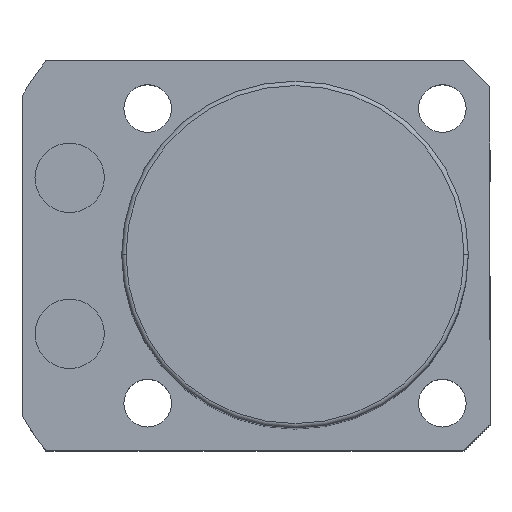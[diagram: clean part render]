
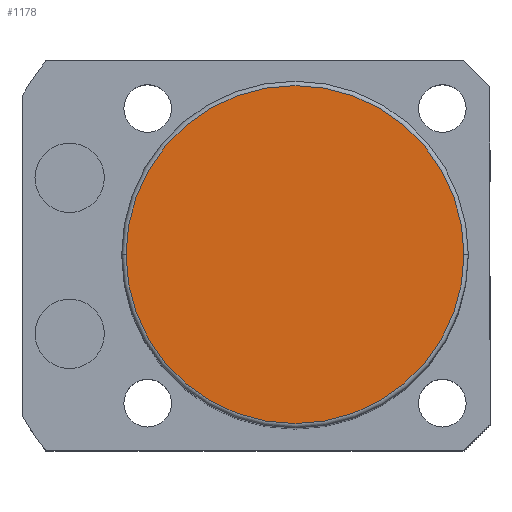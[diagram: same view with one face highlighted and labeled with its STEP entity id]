
A CAD part, top view. The second image highlights one B-rep face of the part: STEP entity #1178.
In plain terms, the highlighted planar face has unit normal (0, 0, 1).
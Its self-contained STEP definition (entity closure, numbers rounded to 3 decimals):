
#7 = CARTESIAN_POINT ( 'NONE',  ( 0., 0., 93.5 ) ) ;
#19 = EDGE_CURVE ( 'NONE', #2079, #356, #2038, .T. ) ;
#131 = AXIS2_PLACEMENT_3D ( 'NONE', #1934, #2527, #2538 ) ;
#213 = EDGE_LOOP ( 'NONE', ( #1511, #2549 ) ) ;
#221 = DIRECTION ( 'NONE',  ( 1., 0., 0. ) ) ;
#241 = PLANE ( 'NONE',  #131 ) ;
#356 = VERTEX_POINT ( 'NONE', #824 ) ;
#705 = DIRECTION ( 'NONE',  ( 0., 0., 1. ) ) ;
#824 = CARTESIAN_POINT ( 'NONE',  ( 19.5, 0., 93.5 ) ) ;
#1178 = ADVANCED_FACE ( 'NONE', ( #1349 ), #241, .T. ) ;
#1317 = CARTESIAN_POINT ( 'NONE',  ( 0., 0., 93.5 ) ) ;
#1349 = FACE_OUTER_BOUND ( 'NONE', #213, .T. ) ;
#1483 = DIRECTION ( 'NONE',  ( 0., 0., 1. ) ) ;
#1511 = ORIENTED_EDGE ( 'NONE', *, *, #1629, .T. ) ;
#1629 = EDGE_CURVE ( 'NONE', #356, #2079, #1671, .T. ) ;
#1671 = CIRCLE ( 'NONE', #2564, 19.5 ) ;
#1934 = CARTESIAN_POINT ( 'NONE',  ( 0., 0., 93.5 ) ) ;
#1948 = DIRECTION ( 'NONE',  ( 1., 0., 0. ) ) ;
#2038 = CIRCLE ( 'NONE', #2374, 19.5 ) ;
#2079 = VERTEX_POINT ( 'NONE', #2192 ) ;
#2192 = CARTESIAN_POINT ( 'NONE',  ( -19.5, 0., 93.5 ) ) ;
#2374 = AXIS2_PLACEMENT_3D ( 'NONE', #1317, #705, #1948 ) ;
#2527 = DIRECTION ( 'NONE',  ( 0., 0., 1. ) ) ;
#2538 = DIRECTION ( 'NONE',  ( 1., 0., 0. ) ) ;
#2549 = ORIENTED_EDGE ( 'NONE', *, *, #19, .T. ) ;
#2564 = AXIS2_PLACEMENT_3D ( 'NONE', #7, #1483, #221 ) ;
